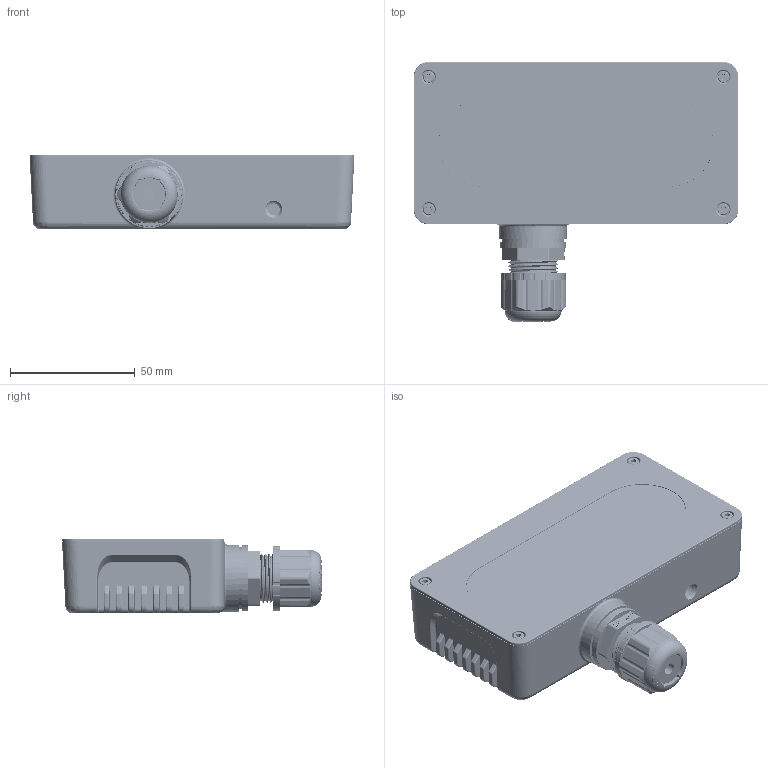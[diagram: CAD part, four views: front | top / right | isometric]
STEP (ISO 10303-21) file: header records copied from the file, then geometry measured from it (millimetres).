
FILE_DESCRIPTION((''),'2;1');
FILE_NAME('010-00004_ASM','2022-01-15T19:32:38',('TWSung'),(''),'CREO PARAMETRIC BY PTC INC, 2020154','CREO PARAMETRIC BY PTC INC, 2020154','');
FILE_SCHEMA(('CONFIG_CONTROL_DESIGN'));
Products named in the file (17): 606-00005; _X_CD_X_B9_X_CC_X_A8-_X_C0_X_AD; CHUA358CCDCALA84_4; 609-00003_ASM; 611-00017; 611-00013; 606-00006; 611-00004; 612-00001; CHUA358CCDCALA84_8; CHUA358CCDCALA84_7; 611-00006_ASM; 604-00002; 602-00003; 602-00005; MSBR1; 010-00004_ASM
Assembly tree (25 placements, depth 3):
  010-00004_ASM
    606-00005
    609-00003_ASM
      _X_CD_X_B9_X_CC_X_A8-_X_C0_X_AD
      CHUA358CCDCALA84_4
    611-00017  x2
    611-00013
    606-00006
    611-00004  x3
    612-00001
    611-00006_ASM
      CHUA358CCDCALA84_8
      CHUA358CCDCALA84_7
    604-00002
    602-00003  x4
    602-00005  x4
    MSBR1
Bounding box: 130.01 x 104.07 x 29.9 mm (x, y, z)
Volume: 121796.4 mm3; surface area: 91908.3 mm2
Topology: 23 solids, 23 shells, 3775 faces, 9920 edges, 6247 vertices
Faces by surface type: cylinder 1430, plane 874, bspline 676, cone 312, torus 280, extrusion 179, sphere 24
Entity records: 170198 total; most frequent: CARTESIAN_POINT 98797, ORIENTED_EDGE 16264, DIRECTION 12689, EDGE_CURVE 8132, VERTEX_POINT 5131, AXIS2_PLACEMENT_3D 4688, VECTOR 3313, EDGE_LOOP 3283
